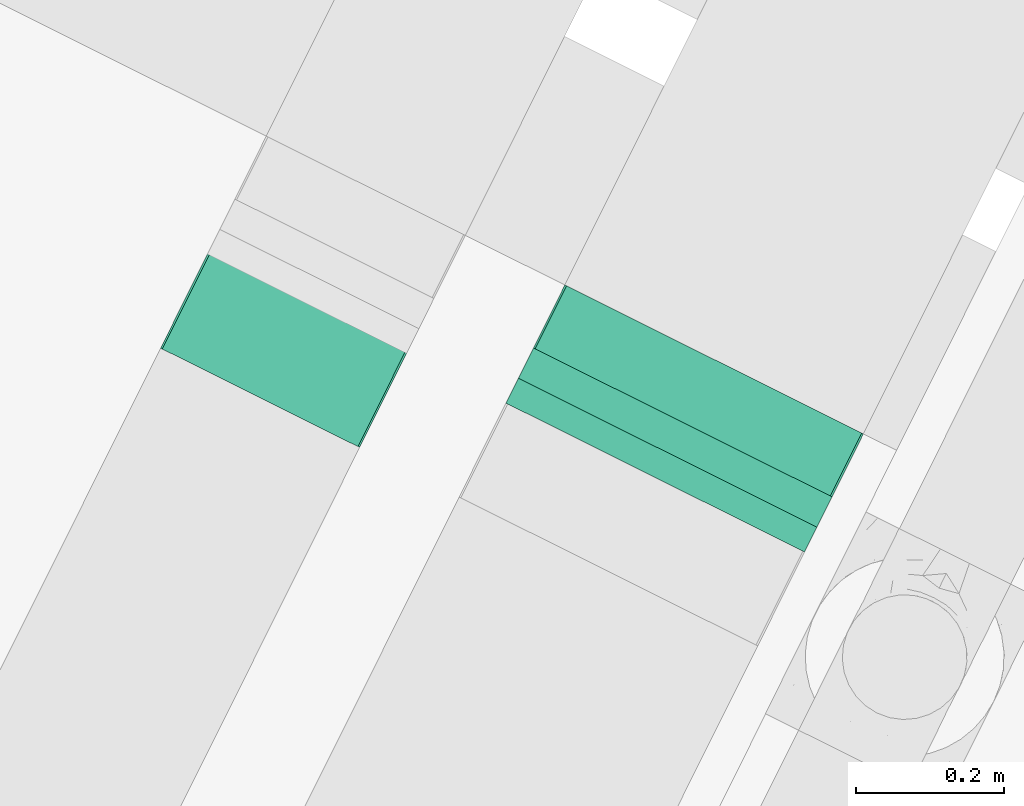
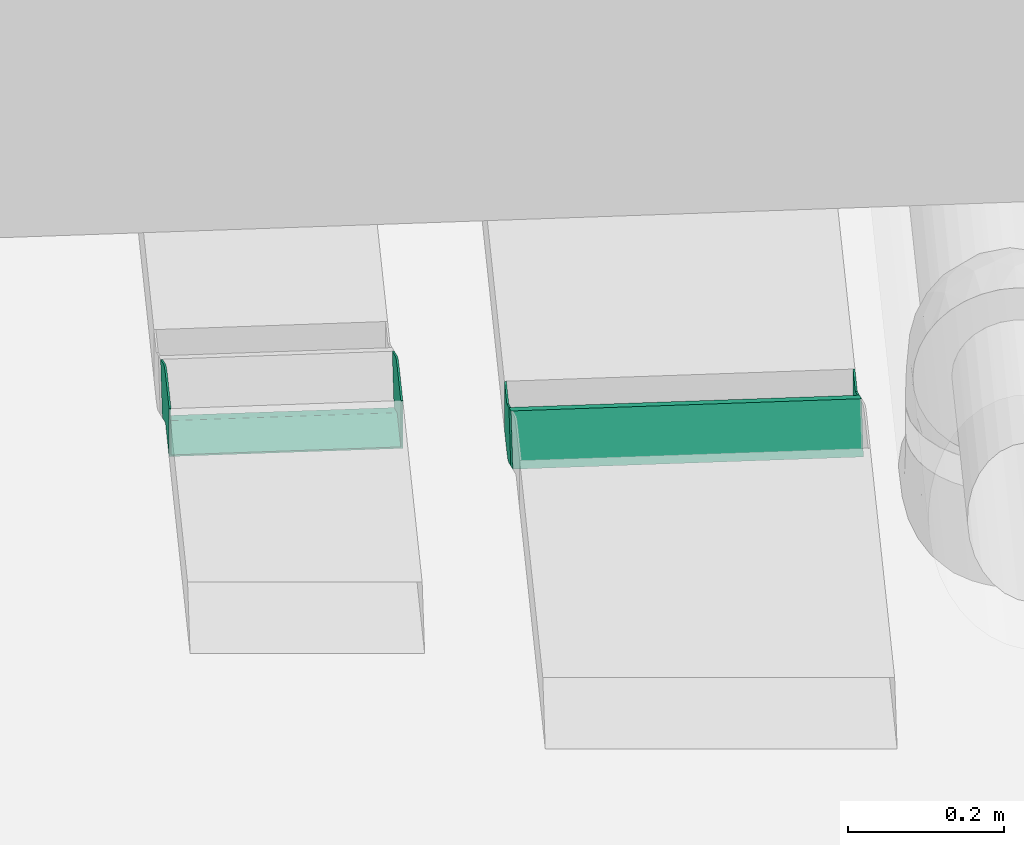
# One storey, part 74 of 91: 2 flow fittings, 1 flow segment.
"""IFC2X3 building model written with IfcOpenShell, lengths in metres."""

from ifc_helpers import new_model, entity, si_unit, converted_unit, derived_unit, direction, frame, frame_2d, origin, place, context, subcontext, project, spatial, rectangle, extrude, faceted_brep, source, transform, mapped, type_object, type_shapes, element, save


model = new_model("IFC2X3")

# Units and contexts
model_context = context("Model", 3, precision=1e-05, world=origin(), true_north=direction((0.894925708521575, 0.446215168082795)))
context_of_model = context(None, 3, precision=1e-05, world=origin(), true_north=direction((0.894925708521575, 0.446215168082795)))
body_context = subcontext(model_context, "Body", "Model", "MODEL_VIEW")
ifc_project = project(units=[si_unit("LENGTHUNIT", "METRE"), si_unit("AREAUNIT", "SQUARE_METRE"), si_unit("VOLUMEUNIT", "CUBIC_METRE"), converted_unit("PLANEANGLEUNIT", "DEGREE", entity("IfcRatioMeasure", 0.0174532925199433), si_unit("PLANEANGLEUNIT", "RADIAN"), dimensions=[0, 0, 0, 0, 0, 0, 0]), si_unit("MASSUNIT", "GRAM", prefix="KILO"), si_unit("TIMEUNIT", "SECOND"), si_unit("FREQUENCYUNIT", "HERTZ"), si_unit("THERMODYNAMICTEMPERATUREUNIT", "DEGREE_CELSIUS"), derived_unit("THERMALTRANSMITTANCEUNIT", [(si_unit("MASSUNIT", "GRAM", prefix="KILO"), 1), (si_unit("THERMODYNAMICTEMPERATUREUNIT", "KELVIN"), -1), (si_unit("TIMEUNIT", "SECOND"), -3)]), derived_unit("VOLUMETRICFLOWRATEUNIT", [(si_unit("LENGTHUNIT", "METRE"), 3), (si_unit("TIMEUNIT", "SECOND"), -1)]), si_unit("ELECTRICCURRENTUNIT", "AMPERE"), si_unit("ELECTRICVOLTAGEUNIT", "VOLT"), si_unit("POWERUNIT", "WATT"), si_unit("FORCEUNIT", "NEWTON", prefix="KILO"), si_unit("ILLUMINANCEUNIT", "LUX"), si_unit("LUMINOUSFLUXUNIT", "LUMEN"), si_unit("LUMINOUSINTENSITYUNIT", "CANDELA"), si_unit("PRESSUREUNIT", "PASCAL")], contexts=[model_context, context_of_model])

# Site, building, storey
site_placement = place(None, frame((218.228324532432, 584.720189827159, 0.0), z_axis=(0.0, 0.0, 1.0), x_axis=(0.446215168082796, 0.894925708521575, 0.0)))
site = spatial("IfcSite", under=ifc_project, at=site_placement, Name="Default", CompositionType="ELEMENT")
building_placement = place(site_placement, origin())
building = spatial("IfcBuilding", under=site, at=building_placement, CompositionType="ELEMENT")
storey_placement = place(building_placement, origin())
storey = spatial("IfcBuildingStorey", under=building, at=storey_placement, Name="0 - Piano Terra", CompositionType="ELEMENT", Elevation=0.0)

# Flow segment
cable_carrier_segment_type = type_object("IfcCableCarrierSegmentType", Name="Passerella con raccordi:Passerella canale", PredefinedType="NOTDEFINED")
flow_segment_placement = place(storey_placement, frame((-13.3624177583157, -4.20107899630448, 3.59822448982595)))
element("IfcFlowSegment", 1, at=flow_segment_placement, inside=storey, type_object=cable_carrier_segment_type, Name="Passerella con raccordi:Passerella canale", ObjectType="Passerella con raccordi:Passerella canale", context=body_context, shape_type="SweptSolid", body=[
    extrude(rectangle(XDim=0.0750000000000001, YDim=0.0527002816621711, at=frame_2d((0.0, 0.0), x_axis=(0.0, 1.0))), frame((0.0415698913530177, 0.0, 0.0456510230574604), z_axis=(0.0, 1.0, 0.0), x_axis=(-0.866025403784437, 0.0, 0.500000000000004)), (0.0, 0.0, 1.0), 0.45),
])

# Flow fittings
cable_carrier_fitting_type_1 = type_object("IfcCableCarrierFittingType", Name="Standard", PredefinedType="NOTDEFINED")
shared_shape_1 = source(origin(), body_context, "Body", "Brep", [
    faceted_brep([(-0.0858988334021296, -0.0374999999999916, -0.150000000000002), (-0.0858988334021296, -0.0374999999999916, 0.149999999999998), (-0.0858988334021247, 0.0375000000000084, 0.149999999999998), (-0.0858988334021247, 0.0375000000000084, 0.147460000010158), (-0.0858988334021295, -0.0349600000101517, 0.147460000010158), (-0.0858988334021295, -0.0349600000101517, -0.147460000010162), (-0.0858988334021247, 0.0375000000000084, -0.147460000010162), (-0.0858988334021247, 0.0375000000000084, -0.150000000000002), (0.0931405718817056, -0.0104734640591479, -0.150000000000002), (0.0931405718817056, -0.0104734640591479, -0.147460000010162), (0.0569105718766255, -0.0732256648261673, -0.147460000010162), (0.0569105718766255, -0.0732256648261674, 0.147460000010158), (0.0931405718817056, -0.0104734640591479, 0.147460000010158), (0.0931405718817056, -0.0104734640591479, 0.149999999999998), (0.0556405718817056, -0.0754253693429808, 0.149999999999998), (0.0556405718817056, -0.0754253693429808, -0.150000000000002), (-0.0108988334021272, -0.0374999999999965, 0.149999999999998), (-0.0100770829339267, -0.0376081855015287, 0.149999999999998), (-0.00931133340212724, -0.037925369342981, 0.149999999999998), (0.0281886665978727, 0.027026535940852, 0.149999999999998), (0.0187615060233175, 0.0309313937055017, 0.149999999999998), (0.0093343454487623, 0.0348362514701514, 0.149999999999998), (-0.000782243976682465, 0.0361681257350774, 0.149999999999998), (-0.0108988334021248, 0.0375000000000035, 0.149999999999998), (-0.0108988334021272, -0.0374999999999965, -0.150000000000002), (-0.0108988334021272, -0.0374999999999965, -0.142222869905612), (-0.0108988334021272, -0.0374999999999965, -0.134445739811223), (-0.0108988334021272, -0.0374999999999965, -0.126668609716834), (-0.0108988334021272, -0.0374999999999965, -0.118891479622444), (-0.0108988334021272, -0.0374999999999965, -0.111114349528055), (-0.0108988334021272, -0.0374999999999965, -0.103337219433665), (-0.0108988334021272, -0.0374999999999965, -0.0955600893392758), (-0.0108988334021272, -0.0374999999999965, -0.0877829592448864), (-0.0108988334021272, -0.0374999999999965, -0.0822965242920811), (-0.0108988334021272, -0.0374999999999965, -0.0768100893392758), (-0.0108988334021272, -0.0374999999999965, -0.0713236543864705), (-0.0108988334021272, -0.0374999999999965, -0.0658372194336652), (-0.0108988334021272, -0.0374999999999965, -0.06035078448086), (-0.0108988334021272, -0.0374999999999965, -0.0548643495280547), (-0.0108988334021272, -0.0374999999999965, -0.0493779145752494), (-0.0108988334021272, -0.0374999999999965, -0.0438914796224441), (-0.0108988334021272, -0.0374999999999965, -0.0384050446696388), (-0.0108988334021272, -0.0374999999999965, -0.0329186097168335), (-0.0108988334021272, -0.0374999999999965, -0.0274321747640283), (-0.0108988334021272, -0.0374999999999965, -0.021945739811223), (-0.0108988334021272, -0.0374999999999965, -0.0164593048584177), (-0.0108988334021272, -0.0374999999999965, -0.0109728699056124), (-0.0108988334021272, -0.0374999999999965, -0.00548643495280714), (-0.0108988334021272, -0.0374999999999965, 0.0), (-0.0108988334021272, -0.0374999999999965, 0.00468749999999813), (-0.0108988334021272, -0.0374999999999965, 0.00937499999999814), (-0.0108988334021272, -0.0374999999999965, 0.0187499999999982), (-0.0108988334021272, -0.0374999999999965, 0.0281249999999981), (-0.0108988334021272, -0.0374999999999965, 0.0328124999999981), (-0.0108988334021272, -0.0374999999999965, 0.0374999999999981), (-0.0108988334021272, -0.0374999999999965, 0.0468749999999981), (-0.0108988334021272, -0.0374999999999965, 0.0562499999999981), (-0.0108988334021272, -0.0374999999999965, 0.0656249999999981), (-0.0108988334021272, -0.0374999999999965, 0.0749999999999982), (-0.0108988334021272, -0.0374999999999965, 0.0843749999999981), (-0.0108988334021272, -0.0374999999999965, 0.0890624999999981), (-0.0108988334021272, -0.0374999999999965, 0.0937499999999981), (-0.0108988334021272, -0.0374999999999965, 0.103124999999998), (-0.0108988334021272, -0.0374999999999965, 0.112499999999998), (-0.0108988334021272, -0.0374999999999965, 0.121874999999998), (-0.0108988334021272, -0.0374999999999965, 0.131249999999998), (-0.0108988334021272, -0.0374999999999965, 0.136736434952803), (-0.0108988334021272, -0.0374999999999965, 0.142222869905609), (-0.0108988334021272, 0.0375000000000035, -0.150000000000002), (-0.00136101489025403, 0.0362443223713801, -0.150000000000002), (0.0093343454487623, 0.0348362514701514, -0.150000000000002), (0.0187615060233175, 0.0309313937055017, -0.150000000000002), (0.0281886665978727, 0.027026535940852, -0.150000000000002), (-0.00931133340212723, -0.0379253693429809, -0.150000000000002), (-0.0100770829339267, -0.0376081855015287, -0.150000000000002), (-0.0108988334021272, 0.0375000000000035, -0.147460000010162), (-0.0108988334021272, 0.0375000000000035, 0.147460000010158), (-0.0108988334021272, -0.0349600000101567, -0.147460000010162), (-0.00941968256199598, -0.0351547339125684, -0.147460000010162), (-0.00804133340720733, -0.0357256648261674, -0.147460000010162), (0.0281886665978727, 0.027026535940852, -0.147460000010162), (0.0187615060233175, 0.0309313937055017, -0.147460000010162), (0.0093343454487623, 0.0348362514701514, -0.147460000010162), (-0.000782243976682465, 0.0361681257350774, -0.147460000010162), (-0.0108988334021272, -0.0349600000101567, 0.147460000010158), (-0.0108988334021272, -0.0349600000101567, 0.137025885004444), (-0.0108988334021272, -0.0349600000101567, 0.12659176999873), (-0.0108988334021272, -0.0349600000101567, 0.110595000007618), (-0.0108988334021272, -0.0349600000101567, 0.0921625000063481), (-0.0108988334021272, -0.0349600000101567, 0.0737300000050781), (-0.0108988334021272, -0.0349600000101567, 0.0552975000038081), (-0.0108988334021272, -0.0349600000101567, 0.0368650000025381), (-0.0108988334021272, -0.0349600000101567, 0.0184325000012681), (-0.0108988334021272, -0.0349600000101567, 0.0), (-0.0108988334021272, -0.0349600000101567, -0.0159967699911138), (-0.0108988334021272, -0.0349600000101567, -0.0319935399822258), (-0.0108988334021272, -0.0349600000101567, -0.0479903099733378), (-0.0108988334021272, -0.0349600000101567, -0.0639870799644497), (-0.0108988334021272, -0.0349600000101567, -0.0744211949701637), (-0.0108988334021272, -0.0349600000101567, -0.0848553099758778), (-0.0108988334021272, -0.0349600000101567, -0.0952894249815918), (-0.0108988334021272, -0.0349600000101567, -0.105723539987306), (-0.0108988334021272, -0.0349600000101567, -0.11615765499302), (-0.0108988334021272, -0.0349600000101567, -0.126591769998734), (-0.0108988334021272, -0.0349600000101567, -0.137025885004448), (-0.000782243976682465, 0.0361681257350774, 0.147460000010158), (0.0093343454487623, 0.0348362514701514, 0.147460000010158), (0.0193008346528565, 0.0307079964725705, 0.147460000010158), (0.0281886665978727, 0.027026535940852, 0.147460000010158), (-0.00804133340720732, -0.0357256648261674, 0.147460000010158), (-0.00941968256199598, -0.0351547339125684, 0.147460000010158), (-0.0100160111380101, -0.0376252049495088, 0.0878571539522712), (-0.00931133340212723, -0.0379253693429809, -0.0731899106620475), (-0.00931133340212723, -0.0379253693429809, -0.0677034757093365), (-0.0101159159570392, -0.0375980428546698, -0.0740668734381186), (-0.00931133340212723, -0.0379253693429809, -0.0786763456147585), (-0.0101159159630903, -0.0375980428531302, -0.052121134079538), (-0.00931133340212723, -0.0379253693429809, -0.0567306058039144), (-0.00931133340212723, -0.0379253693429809, -0.0512441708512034), (-0.00931133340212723, -0.0379253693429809, -0.0457577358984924), (-0.0100062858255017, -0.0376280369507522, 0.0107980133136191), (-0.0100430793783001, -0.0376174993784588, 0.017385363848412), (-0.00931133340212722, -0.0379253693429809, -0.146111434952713), (-0.0100060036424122, -0.0376281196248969, -0.142569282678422), (-0.00931133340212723, -0.0379253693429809, 0.0200794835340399), (-0.0101719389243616, -0.0375843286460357, 0.0236284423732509), (-0.00931133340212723, -0.0379253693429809, 0.14222286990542), (-0.0100770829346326, -0.0376081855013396, 0.138334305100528), (-0.00931133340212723, -0.0379253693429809, 0.134445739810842), (-0.00999532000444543, -0.0376312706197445, 0.122780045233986), (-0.0100663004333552, -0.0376110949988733, 0.0542475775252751), (-0.00931133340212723, -0.0379253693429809, 0.0566744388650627), (-0.010097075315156, -0.0376028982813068, 0.0605630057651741), (-0.0101157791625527, -0.0375980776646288, -0.129790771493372), (-0.0100389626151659, -0.0376186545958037, -0.119824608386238), (-0.01011591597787, -0.0375980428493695, -0.0301753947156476), (-0.0099977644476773, -0.0376305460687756, 0.0761172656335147), (-0.00931133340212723, -0.0379253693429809, 0.0800058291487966), (-0.0100662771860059, -0.0376111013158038, 0.0824060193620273), (-0.00931133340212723, -0.0379253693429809, 0.0333430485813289), (-0.00931133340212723, -0.0379253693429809, 0.0411201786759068), (-0.0100563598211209, -0.0376138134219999, 0.0388108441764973), (-0.00931133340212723, -0.0379253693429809, -0.0292984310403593), (-0.00931133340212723, -0.0379253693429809, -0.0238119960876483), (-0.00931133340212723, -0.0379253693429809, -0.0347848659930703), (-0.00931133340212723, -0.0379253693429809, -0.00735269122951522), (-0.00931133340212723, -0.0379253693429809, -0.0018662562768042), (-0.0101159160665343, -0.0375980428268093, -0.00822965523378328), (-0.00931133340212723, -0.0379253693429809, -0.0128391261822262), (-0.010022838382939, -0.0376232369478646, 0.144167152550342), (-0.0100105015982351, -0.0376268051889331, 0.0450087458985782), (-0.00931133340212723, -0.0379253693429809, 0.0488973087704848), (-0.0100992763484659, -0.0376023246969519, 0.00234375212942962), (-0.0101111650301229, -0.0375992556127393, 0.06937590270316), (-0.00931133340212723, -0.0379253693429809, 0.0145930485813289), (-0.0100494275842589, -0.0376157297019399, -0.136209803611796), (-0.0100191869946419, -0.0376242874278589, -0.0434785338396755), (-0.00931133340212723, -0.0379253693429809, -0.0402713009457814), (-0.0101258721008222, -0.0375955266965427, -0.0371719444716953), (-0.0101258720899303, -0.0375955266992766, -0.0591176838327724), (-0.0100602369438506, -0.0376127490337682, -0.0934055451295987), (-0.0100098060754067, -0.0376270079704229, -0.11311245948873), (-0.0100492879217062, -0.0376157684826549, 0.0933153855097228), (-0.010067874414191, -0.0376106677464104, 0.0994486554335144), (-0.010108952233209, -0.0375998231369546, 0.109805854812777), (-0.00931133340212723, -0.0379253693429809, 0.10333721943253), (-0.00931133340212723, -0.0379253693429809, 0.111114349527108), (-0.0100522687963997, -0.0376149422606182, 0.132170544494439), (-0.00931133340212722, -0.0379253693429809, -0.13902713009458), (-0.010106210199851, -0.0376005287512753, 0.116092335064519), (-0.00931133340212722, -0.0379253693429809, -0.133540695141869), (-0.0101258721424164, -0.0375955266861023, -0.0152262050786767), (-0.00931133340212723, -0.0379253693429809, -0.0183255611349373), (-0.0100191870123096, -0.0376242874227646, -0.0215327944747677), (-0.0101258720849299, -0.0375955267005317, -0.0810634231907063), (-0.00931133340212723, -0.0379253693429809, -0.0622170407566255), (-0.0100191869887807, -0.037624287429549, -0.0654242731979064), (-0.00931133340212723, -0.0379253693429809, -0.0951356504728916), (-0.00931133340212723, -0.0379253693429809, -0.0896492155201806), (-0.00931133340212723, -0.0379253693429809, -0.0841627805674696), (-0.0100191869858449, -0.0376242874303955, -0.0873700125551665), (-0.00931133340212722, -0.0379253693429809, -0.122567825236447), (-0.00931133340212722, -0.0379253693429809, -0.117081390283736), (-0.0101042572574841, -0.0376010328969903, -0.105576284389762), (-0.00931133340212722, -0.0379253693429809, -0.111594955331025), (-0.00931133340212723, -0.0379253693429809, -0.106108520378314), (-0.00931133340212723, -0.0379253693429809, -0.100622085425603), (-0.00931133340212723, -0.0379253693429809, 0.126668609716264), (-0.00931133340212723, -0.0379253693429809, 0.118891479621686), (-0.00931133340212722, -0.0379253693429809, -0.128054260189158), (-0.00931133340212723, -0.0379253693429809, 0.0955600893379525), (-0.00931133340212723, -0.0379253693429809, 0.0877829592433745), (-0.00931133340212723, -0.0379253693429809, 0.0722286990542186), (-0.00931133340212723, -0.0379253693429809, 0.0644515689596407), (-0.0100612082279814, -0.0376124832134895, 0.0304687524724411), (-0.00931133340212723, -0.0379253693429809, 0.0255659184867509), (-0.00931133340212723, -0.0379253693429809, 0.00910661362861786), (-0.00931133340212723, -0.0379253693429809, 0.00362017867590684), (-0.0100571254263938, -0.0376136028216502, -0.0994486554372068), (-0.00943516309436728, -0.0351506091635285, -0.0450563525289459), (-0.00804133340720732, -0.0357256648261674, -0.0535529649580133), (-0.00941968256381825, -0.0351547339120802, -0.0559886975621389), (-0.00941968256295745, -0.0351547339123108, -0.0796382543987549), (-0.00941968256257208, -0.0351547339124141, -0.093108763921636), (-0.00941968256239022, -0.0351547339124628, -0.107538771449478), (-0.00941968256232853, -0.0351547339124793, -0.118338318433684), (-0.00941968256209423, -0.0351547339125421, -0.131808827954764), (-0.00941968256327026, -0.035154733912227, -0.0670727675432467), (-0.00804133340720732, -0.0357256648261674, 0.115466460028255), (-0.00951383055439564, -0.0351303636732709, 0.119704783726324), (-0.00804133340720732, -0.0357256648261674, 0.131463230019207), (-0.00938820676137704, -0.0351632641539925, 0.0142687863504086), (-0.009539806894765, -0.035123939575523, 0.0276487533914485), (-0.00944772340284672, -0.0351472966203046, 0.0964175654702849), (-0.00938732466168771, -0.0351635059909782, 0.00298298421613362), (-0.00804133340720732, -0.0357256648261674, -0.0639870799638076), (-0.00804133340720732, -0.0357256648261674, -0.0744211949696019), (-0.00804133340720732, -0.0357256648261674, -0.0848553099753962), (-0.00804133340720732, -0.0357256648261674, -0.0952894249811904), (-0.00804133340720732, -0.0357256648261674, -0.105723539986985), (-0.00804133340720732, -0.0357256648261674, -0.116157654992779), (-0.00804133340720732, -0.0357256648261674, -0.126591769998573), (-0.00804133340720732, -0.0357256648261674, -0.137025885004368), (-0.00931691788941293, -0.0351833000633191, 0.0731869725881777), (-0.00960988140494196, -0.0351072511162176, 0.0843997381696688), (-0.00939822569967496, -0.0351605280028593, -0.0274676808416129), (-0.00804133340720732, -0.0357256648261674, -0.0222506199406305), (-0.00804133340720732, -0.0357256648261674, -0.0326847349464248), (-0.00938352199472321, -0.0351645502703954, 0.0609207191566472), (-0.00804133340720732, -0.0357256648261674, 0.0354826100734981), (-0.00804133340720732, -0.0357256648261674, 0.0194858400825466), (-0.0092916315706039, -0.0351906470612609, -0.0159019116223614), (-0.00950624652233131, -0.0351322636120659, 0.131808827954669), (-0.00925164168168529, -0.0352025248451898, 0.107597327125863), (-0.00804133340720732, -0.0357256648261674, 0.0994696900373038), (-0.00804133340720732, -0.0357256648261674, 0.0834729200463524), (-0.00804133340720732, -0.0357256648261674, 0.0674761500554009), (-0.00804133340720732, -0.0357256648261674, -0.043118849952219), (-0.00939896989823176, -0.0351603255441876, 0.0385250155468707), (-0.00953825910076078, -0.0351243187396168, 0.0497283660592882), (-0.00804133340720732, -0.0357256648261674, 0.00905172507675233), (-0.00804133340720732, -0.0357256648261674, -0.0118165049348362), (-0.00804133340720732, -0.0357256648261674, -0.00138238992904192), (-0.00804133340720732, -0.0357256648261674, 0.0514793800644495)], [[[0, 1, 2, 3, 4, 5, 6, 7]], [[8, 9, 10, 11, 12, 13, 14, 15]], [[1, 16, 17, 18, 14, 13, 19, 20, 21, 22, 23, 2]], [[16, 1, 0, 24, 25, 26, 27, 28, 29, 30, 31, 32, 33, 34, 35, 36, 37, 38, 39, 40, 41, 42, 43, 44, 45, 46, 47, 48, 49, 50, 51, 52, 53, 54, 55, 56, 57, 58, 59, 60, 61, 62, 63, 64, 65, 66, 67]], [[7, 68, 69, 70, 71, 72, 8, 15, 73, 74, 24, 0]], [[75, 68, 7, 6]], [[23, 76, 3, 2]], [[5, 77, 78, 79, 10, 9, 80, 81, 82, 83, 75, 6]], [[77, 5, 4, 84, 85, 86, 87, 88, 89, 90, 91, 92, 93, 94, 95, 96, 97, 98, 99, 100, 101, 102, 103, 104]], [[3, 76, 105, 106, 107, 108, 12, 11, 109, 110, 84, 4]], [[59, 111, 60]], [[112, 113, 114, 115]], [[116, 117, 118, 119]], [[114, 35, 34]], [[116, 39, 38]], [[50, 120, 121]], [[122, 123, 74]], [[121, 124, 125]], [[74, 73, 122]], [[126, 127, 128]], [[129, 65, 64]], [[130, 131, 132]], [[27, 133, 134]], [[135, 43, 42]], [[136, 137, 138]], [[139, 140, 141]], [[142, 143, 135, 144]], [[145, 146, 147, 148]], [[127, 126, 149]], [[130, 150, 151]], [[147, 146, 152]], [[57, 153, 58]], [[141, 140, 150]], [[120, 154, 121]], [[155, 25, 123]], [[156, 157, 158]], [[159, 117, 116]], [[31, 160, 32]], [[29, 28, 161]], [[132, 153, 57]], [[61, 162, 163]], [[164, 165, 166]], [[167, 66, 65]], [[122, 168, 123]], [[164, 166, 169]], [[149, 67, 127]], [[170, 133, 155]], [[167, 128, 127]], [[25, 155, 26]], [[16, 67, 149]], [[25, 24, 74]], [[127, 67, 66]], [[18, 17, 149]], [[171, 148, 147]], [[158, 144, 135]], [[172, 171, 173]], [[174, 115, 114]], [[175, 159, 176]], [[160, 177, 178]], [[179, 174, 180]], [[66, 167, 127]], [[123, 168, 155]], [[74, 123, 25]], [[155, 168, 170]], [[133, 181, 134]], [[134, 182, 161]], [[155, 133, 26]], [[29, 161, 183]], [[161, 28, 134]], [[182, 134, 181]], [[27, 134, 28]], [[183, 184, 185, 186]], [[167, 129, 187]], [[48, 47, 152, 49]], [[167, 65, 129]], [[187, 129, 188]], [[188, 129, 169]], [[187, 128, 167]], [[133, 170, 189, 181]], [[169, 64, 63]], [[64, 169, 129]], [[63, 62, 164]], [[169, 63, 164]], [[166, 188, 169]], [[162, 190, 163]], [[165, 163, 190]], [[164, 62, 163]], [[164, 163, 165]], [[61, 163, 62]], [[138, 58, 136]], [[191, 190, 162]], [[138, 111, 59]], [[136, 192, 137]], [[58, 138, 59]], [[137, 191, 138]], [[136, 153, 192]], [[58, 153, 136]], [[193, 132, 131]], [[130, 132, 56]], [[193, 192, 153]], [[162, 61, 60]], [[153, 132, 193]], [[57, 56, 132]], [[111, 138, 191]], [[141, 150, 54]], [[150, 130, 55]], [[130, 56, 55]], [[151, 150, 140]], [[151, 131, 130]], [[54, 150, 55]], [[125, 194, 52]], [[141, 54, 53]], [[52, 194, 53]], [[195, 194, 125]], [[194, 139, 141]], [[53, 194, 141]], [[195, 139, 194]], [[52, 51, 125]], [[121, 125, 51]], [[50, 121, 51]], [[124, 195, 125]], [[120, 50, 49]], [[152, 196, 120]], [[49, 152, 120]], [[18, 149, 126]], [[147, 46, 171]], [[46, 147, 47]], [[173, 45, 44, 43]], [[45, 173, 171]], [[152, 47, 147]], [[146, 197, 196, 152]], [[135, 143, 173]], [[135, 42, 158]], [[43, 135, 173]], [[156, 41, 40, 39]], [[176, 37, 36, 35]], [[41, 156, 158]], [[116, 119, 156]], [[116, 38, 159]], [[39, 116, 156]], [[37, 176, 159]], [[114, 113, 176]], [[114, 34, 174]], [[35, 114, 176]], [[29, 183, 30]], [[180, 33, 32]], [[33, 180, 174]], [[30, 198, 31]], [[160, 178, 180]], [[198, 177, 160]], [[183, 198, 30]], [[183, 186, 198]], [[121, 154, 124]], [[143, 172, 173]], [[119, 157, 156]], [[113, 175, 176]], [[178, 179, 180]], [[183, 161, 184]], [[32, 160, 180]], [[31, 198, 160]], [[196, 154, 120]], [[149, 17, 16]], [[161, 182, 184]], [[171, 172, 148]], [[158, 157, 144]], [[159, 175, 117]], [[174, 179, 115]], [[26, 133, 27]], [[191, 162, 111]], [[60, 111, 162]], [[171, 46, 45]], [[158, 42, 41]], [[159, 38, 37]], [[174, 34, 33]], [[186, 177, 198]], [[82, 70, 69, 68, 75, 83]], [[23, 22, 21, 106, 105, 76]], [[71, 70, 82, 81, 80, 72]], [[21, 20, 19, 108, 107, 106]], [[199, 200, 201]], [[202, 203, 204, 205, 206, 78, 77, 104, 103, 102, 101, 100, 99, 98, 97, 96, 201, 207]], [[85, 84, 110]], [[208, 209, 210]], [[211, 92, 212]], [[88, 87, 213]], [[211, 214, 93]], [[202, 207, 201, 200, 215, 216, 217, 218, 219, 220, 221, 222, 79, 78, 206, 205, 204, 203]], [[210, 110, 109]], [[223, 89, 224]], [[225, 226, 227]], [[223, 228, 89]], [[229, 230, 212]], [[94, 93, 231]], [[231, 225, 94]], [[209, 232, 210]], [[233, 87, 209]], [[232, 85, 110]], [[85, 232, 86]], [[209, 86, 232]], [[210, 232, 110]], [[209, 87, 86]], [[213, 234, 235]], [[234, 213, 233]], [[233, 209, 208]], [[224, 213, 235]], [[233, 208, 234]], [[233, 213, 87]], [[224, 88, 213]], [[224, 89, 88]], [[236, 228, 223]], [[201, 96, 199]], [[235, 223, 224]], [[92, 91, 212]], [[199, 227, 237, 200]], [[238, 212, 91]], [[239, 238, 91]], [[214, 211, 240]], [[240, 211, 230]], [[92, 211, 93]], [[211, 212, 230]], [[229, 212, 238]], [[199, 96, 95]], [[95, 94, 225]], [[227, 199, 225]], [[231, 226, 225]], [[95, 225, 199]], [[241, 226, 231, 242]], [[214, 242, 231]], [[238, 243, 229]], [[239, 228, 243]], [[90, 89, 228]], [[236, 223, 235]], [[90, 228, 239]], [[228, 236, 243]], [[90, 239, 91]], [[238, 239, 243]], [[93, 214, 231]], [[242, 214, 240]], [[14, 18, 126, 128, 187, 188, 166, 165, 190, 191, 137, 192, 193, 131, 151, 140, 139, 195, 124, 154, 196, 197, 146, 145, 148, 172, 143, 142, 144, 157, 119, 118, 117, 175, 113, 112, 115, 179, 178, 177, 186, 185, 184, 182, 181, 189, 170, 168, 122, 73, 15]], [[8, 72, 80, 9]], [[12, 108, 19, 13]], [[10, 79, 222, 221, 220, 219, 218, 217, 216, 215, 200, 237, 227, 226, 241, 242, 240, 230, 229, 243, 236, 235, 234, 208, 210, 109, 11]]]),
])
type_shapes(cable_carrier_fitting_type_1, [shared_shape_1])
flow_fitting_1_placement = place(storey_placement, frame((-13.4180583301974, -3.45107899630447, 3.80000000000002), z_axis=(0.0, -1.0, 0.0), x_axis=(1.0, 0.0, 0.0)))
element("IfcFlowFitting", 2, at=flow_fitting_1_placement, inside=storey, type_object=cable_carrier_fitting_type_1, Name="M_Curvatura esterna verticale canale:Standard", ObjectType="Standard", context=body_context, shape_type="MappedRepresentation", body=[
    mapped(shared_shape_1, transform((0.0, 0.0, 0.0), scale=1.0)),
])
cable_carrier_fitting_type_2 = type_object("IfcCableCarrierFittingType", Name="Standard", PredefinedType="NOTDEFINED")
shared_shape_2 = source(origin(), body_context, "Body", "Brep", [
    faceted_brep([(-0.0608988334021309, -0.0374999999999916, -0.225000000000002), (-0.0608988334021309, -0.0374999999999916, -0.222460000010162), (-0.0608988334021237, 0.0349600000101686, -0.222460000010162), (-0.0608988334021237, 0.0349600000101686, 0.222460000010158), (-0.0608988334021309, -0.0374999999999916, 0.222460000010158), (-0.0608988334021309, -0.0374999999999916, 0.224999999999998), (-0.0608988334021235, 0.0375000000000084, 0.224999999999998), (-0.0608988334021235, 0.0375000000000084, -0.225000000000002), (0.0702199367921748, -0.000173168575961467, -0.222460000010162), (0.0339899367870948, -0.0629253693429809, -0.222460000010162), (0.0339899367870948, -0.0629253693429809, -0.225000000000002), (0.0714899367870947, 0.00202653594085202, -0.225000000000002), (0.0714899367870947, 0.00202653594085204, 0.224999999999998), (0.0339899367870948, -0.0629253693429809, 0.224999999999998), (0.0339899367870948, -0.0629253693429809, 0.222460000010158), (0.0702199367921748, -0.00017316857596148, 0.222460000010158), (-0.0108988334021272, -0.0374999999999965, 0.224999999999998), (-0.0100770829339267, -0.0376081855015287, 0.224999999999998), (-0.00931133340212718, -0.0379253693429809, 0.224999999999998), (0.0281886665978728, 0.027026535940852, 0.224999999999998), (0.00933434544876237, 0.0348362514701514, 0.224999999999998), (-0.0108988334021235, 0.0375000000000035, 0.224999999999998), (-0.0108988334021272, 0.0375000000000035, 0.0706376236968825), (-0.0108988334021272, 0.0375000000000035, -0.0837247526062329), (-0.0108988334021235, 0.0375000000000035, -0.225000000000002), (0.00933434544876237, 0.0348362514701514, -0.225000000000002), (0.0281886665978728, 0.027026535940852, -0.225000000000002), (-0.00931133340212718, -0.0379253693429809, -0.225000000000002), (-0.0100770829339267, -0.0376081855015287, -0.225000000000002), (-0.0108988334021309, -0.0374999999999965, -0.225000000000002), (-0.0108988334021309, -0.0374999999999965, -0.222460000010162), (-0.0108988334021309, -0.0374999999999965, 0.222460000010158), (-0.0100770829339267, -0.0376081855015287, -0.222460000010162), (-0.00931133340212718, -0.0379253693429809, -0.222460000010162), (0.0269186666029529, 0.0248268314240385, -0.222460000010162), (0.00867694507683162, 0.0323827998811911, -0.222460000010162), (-0.0108988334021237, 0.0349600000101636, -0.222460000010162), (-0.0108988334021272, 0.0349600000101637, -0.0812079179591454), (-0.0108988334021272, 0.0349600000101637, 0.0706260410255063), (-0.0108988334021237, 0.0349600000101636, 0.222460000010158), (0.00867694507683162, 0.0323827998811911, 0.222460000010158), (0.0269186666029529, 0.0248268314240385, 0.222460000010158), (-0.00931133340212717, -0.0379253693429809, 0.222460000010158), (-0.0100770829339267, -0.0376081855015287, 0.222460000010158), (0.0281886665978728, 0.027026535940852, -0.0837247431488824), (0.0281886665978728, 0.027026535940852, 0.0706376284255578), (0.00933434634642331, 0.0348362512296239, -0.00654356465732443), (0.0269186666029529, 0.0248268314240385, -0.0812079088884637), (0.0269186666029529, 0.0248268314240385, 0.0706260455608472), (0.00867694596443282, 0.0323827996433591, -0.00529093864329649)], [[[0, 1, 2, 3, 4, 5, 6, 7]], [[8, 9, 10, 11, 12, 13, 14, 15]], [[5, 16, 17, 18, 13, 12, 19, 20, 21, 6]], [[21, 22, 23, 24, 7, 6]], [[7, 24, 25, 26, 11, 10, 27, 28, 29, 0]], [[30, 1, 0, 29]], [[16, 5, 4, 31]], [[1, 30, 32, 33, 9, 8, 34, 35, 36, 2]], [[36, 37, 38, 39, 3, 2]], [[3, 39, 40, 41, 15, 14, 42, 43, 31, 4]], [[26, 25, 44]], [[45, 20, 19]], [[45, 44, 46]], [[22, 21, 20]], [[24, 23, 25]], [[23, 46, 25]], [[20, 46, 22]], [[44, 25, 46]], [[46, 20, 45]], [[22, 46, 23]], [[29, 28, 32, 30]], [[16, 31, 43, 17]], [[32, 28, 27, 33]], [[43, 42, 18, 17]], [[47, 35, 34]], [[41, 40, 48]], [[49, 47, 48]], [[40, 39, 38]], [[35, 37, 36]], [[35, 49, 37]], [[38, 49, 40]], [[49, 35, 47]], [[48, 40, 49]], [[37, 49, 38]], [[11, 26, 44, 45, 19, 12]], [[10, 9, 33, 27]], [[13, 18, 42, 14]], [[15, 41, 48, 47, 34, 8]]]),
])
type_shapes(cable_carrier_fitting_type_2, [shared_shape_2])
flow_fitting_2_placement = place(storey_placement, frame((-13.2452880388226, -3.97607899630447, 3.60025102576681), z_axis=(0.0, -1.0, 0.0), x_axis=(-1.0, 0.0, 0.0)))
element("IfcFlowFitting", 3, at=flow_fitting_2_placement, inside=storey, type_object=cable_carrier_fitting_type_2, Name="M_Curvatura interna verticale canale:Standard", ObjectType="Standard", context=body_context, shape_type="MappedRepresentation", body=[
    mapped(shared_shape_2, transform((0.0, 0.0, 0.0), scale=1.0)),
])

save(model, "model.ifc")
